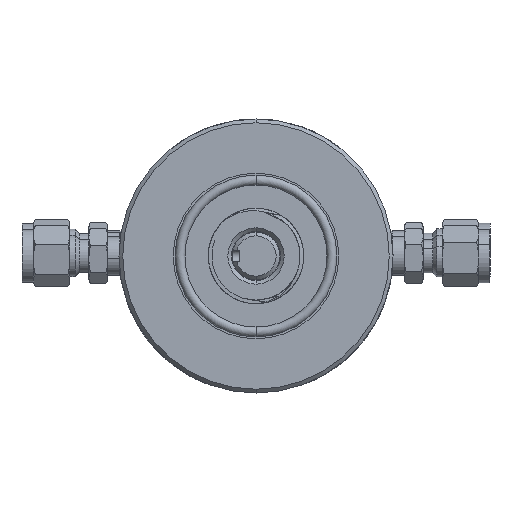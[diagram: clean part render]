
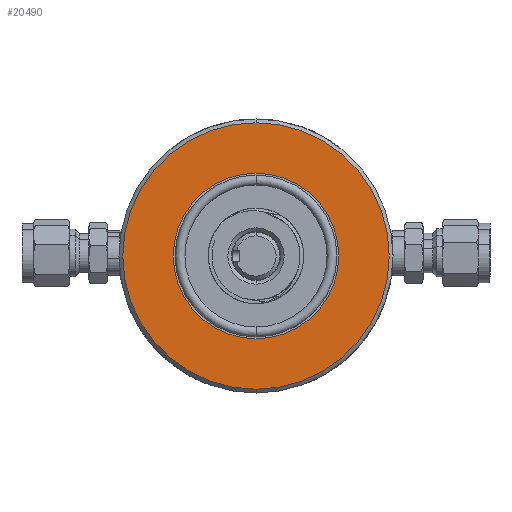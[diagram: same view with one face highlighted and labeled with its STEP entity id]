
A CAD part, left-side view. The second image highlights one B-rep face of the part: STEP entity #20490.
In plain terms, the highlighted planar face has unit normal (-1, 0, 0).
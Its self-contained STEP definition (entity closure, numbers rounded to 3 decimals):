
#19670 = VERTEX_POINT ( 'NONE', #24758 ) ;
#19705 = EDGE_CURVE ( 'NONE', #19670, #19706, #24821, .T. ) ;
#19706 = VERTEX_POINT ( 'NONE', #24812 ) ;
#20302 = EDGE_CURVE ( 'NONE', #20303, #20304, #26247, .T. ) ;
#20303 = VERTEX_POINT ( 'NONE', #26306 ) ;
#20304 = VERTEX_POINT ( 'NONE', #26305 ) ;
#20490 = ADVANCED_FACE ( 'NONE', ( #27347, #27346 ), #27345, .T. ) ;
#20491 = EDGE_LOOP ( 'NONE', ( #20492, #20494 ) ) ;
#20492 = ORIENTED_EDGE ( 'NONE', *, *, #20493, .T. ) ;
#20493 = EDGE_CURVE ( 'NONE', #20304, #20303, #27340, .T. ) ;
#20494 = ORIENTED_EDGE ( 'NONE', *, *, #20302, .T. ) ;
#20495 = EDGE_LOOP ( 'NONE', ( #20496, #20498 ) ) ;
#20496 = ORIENTED_EDGE ( 'NONE', *, *, #20497, .F. ) ;
#20497 = EDGE_CURVE ( 'NONE', #19706, #19670, #27335, .T. ) ;
#20498 = ORIENTED_EDGE ( 'NONE', *, *, #19705, .F. ) ;
#24758 = CARTESIAN_POINT ( 'NONE',  ( 91.6, 0., -22.005 ) ) ;
#24812 = CARTESIAN_POINT ( 'NONE',  ( 91.6, 0., 22.005 ) ) ;
#24813 = DIRECTION ( 'NONE',  ( 0., 0., 1. ) ) ;
#24814 = DIRECTION ( 'NONE',  ( -1., 0., 0. ) ) ;
#24815 = CARTESIAN_POINT ( 'NONE',  ( 91.6, 0., 0. ) ) ;
#24816 = AXIS2_PLACEMENT_3D ( 'NONE', #24815, #24814, #24813 ) ;
#24821 = CIRCLE ( 'NONE', #24816, 22.005 ) ;
#26247 = CIRCLE ( 'NONE', #26310, 35.45 ) ;
#26305 = CARTESIAN_POINT ( 'NONE',  ( 91.6, 0., -35.45 ) ) ;
#26306 = CARTESIAN_POINT ( 'NONE',  ( 91.6, 0., 35.45 ) ) ;
#26307 = DIRECTION ( 'NONE',  ( 0., 0., 1. ) ) ;
#26308 = DIRECTION ( 'NONE',  ( -1., 0., 0. ) ) ;
#26309 = CARTESIAN_POINT ( 'NONE',  ( 91.6, 0., 0. ) ) ;
#26310 = AXIS2_PLACEMENT_3D ( 'NONE', #26309, #26308, #26307 ) ;
#27332 = DIRECTION ( 'NONE',  ( -1., 0., 0. ) ) ;
#27333 = CARTESIAN_POINT ( 'NONE',  ( 91.6, 0., 0. ) ) ;
#27334 = AXIS2_PLACEMENT_3D ( 'NONE', #27333, #27332, #27382 ) ;
#27335 = CIRCLE ( 'NONE', #27334, 22.005 ) ;
#27336 = DIRECTION ( 'NONE',  ( 0., 0., 1. ) ) ;
#27337 = DIRECTION ( 'NONE',  ( -1., 0., 0. ) ) ;
#27338 = CARTESIAN_POINT ( 'NONE',  ( 91.6, 0., 0. ) ) ;
#27339 = AXIS2_PLACEMENT_3D ( 'NONE', #27338, #27337, #27336 ) ;
#27340 = CIRCLE ( 'NONE', #27339, 35.45 ) ;
#27341 = DIRECTION ( 'NONE',  ( 0., 0., 1. ) ) ;
#27342 = DIRECTION ( 'NONE',  ( -1., 0., 0. ) ) ;
#27343 = CARTESIAN_POINT ( 'NONE',  ( 91.6, 0., -12.7 ) ) ;
#27344 = AXIS2_PLACEMENT_3D ( 'NONE', #27343, #27342, #27341 ) ;
#27345 = PLANE ( 'NONE',  #27344 ) ;
#27346 = FACE_BOUND ( 'NONE', #20495, .T. ) ;
#27347 = FACE_OUTER_BOUND ( 'NONE', #20491, .T. ) ;
#27382 = DIRECTION ( 'NONE',  ( 0., 0., 1. ) ) ;
